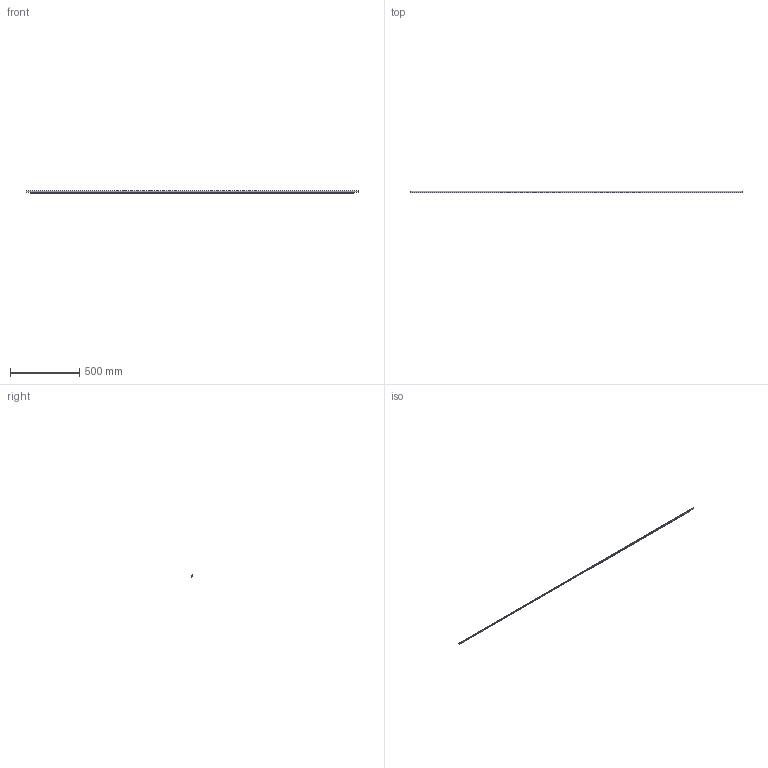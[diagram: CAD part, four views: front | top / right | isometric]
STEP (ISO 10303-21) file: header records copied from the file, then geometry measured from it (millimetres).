
FILE_DESCRIPTION( ( 'STEP AP214' ), '1' );
FILE_NAME( 'D:/Shahbaz D&D/Task/Working-ON/Correct Handle bar Riaza/QC/9208094/9266102.stp', '2023-03-13T09:08:26', ( '' ), ( '' ), ' ', 'PARTsolutions', ' ' );
FILE_SCHEMA( ( 'AUTOMOTIVE_DESIGN { 1 0 10303 214 1 1 1 1 }' ) );
Length unit declared in the file: millimetre
Products named in the file (1): _9266102
Bounding box: 2400 x 12.49 x 18 mm (x, y, z)
Volume: 138273.1 mm3; surface area: 142079.6 mm2
Topology: 1 solids, 1 shells, 28 faces, 75 edges, 50 vertices
Faces by surface type: plane 25, cylinder 3
Entity records: 1105 total; most frequent: CARTESIAN_POINT 154, ORIENTED_EDGE 150, DIRECTION 139, EDGE_CURVE 75, LINE 69, VECTOR 69, VERTEX_POINT 50, AXIS2_PLACEMENT_3D 35
